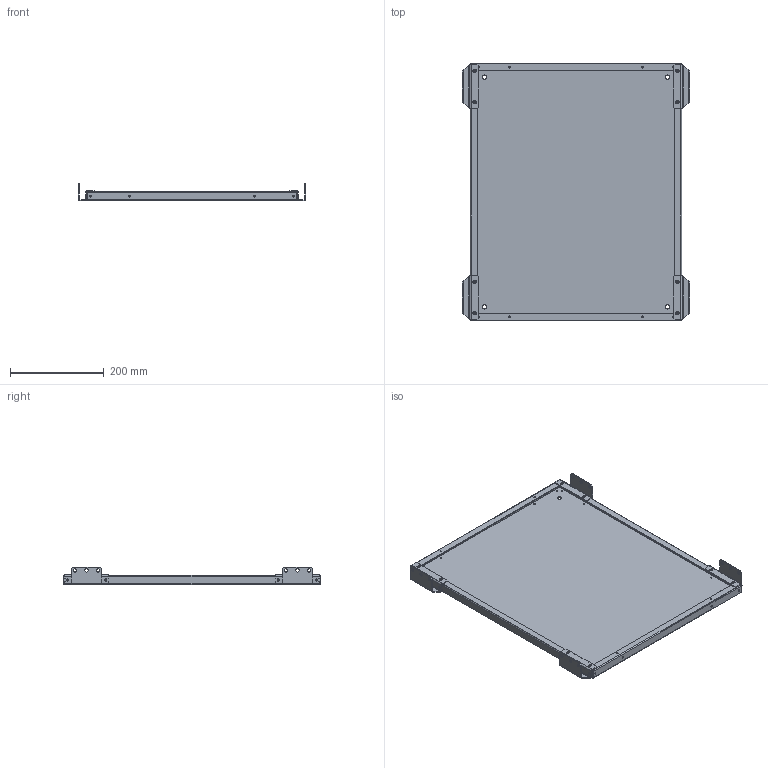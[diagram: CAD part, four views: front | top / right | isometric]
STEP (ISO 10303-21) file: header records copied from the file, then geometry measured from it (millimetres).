
FILE_DESCRIPTION (( 'STEP AP203' ), '1' );
FILE_NAME ('MP 45.55 M Ïàíåëü ìîíòàæíàÿ ñåêöèîííàÿ.STEP', '2013-01-09T13:28:31', ( 'System' ), ( '' ), 'SwSTEP 2.0', 'SolidWorks 2012', '' );
FILE_SCHEMA (( 'CONFIG_CONTROL_DESIGN' ));
Length unit declared in the file: millimetre
Products named in the file (1): MP 45.55 M Ïàíåëü ìîíòàæíàÿ ñåêöèîííàÿ
Bounding box: 485 x 550 x 37.75 mm (x, y, z)
Volume: 664845.2 mm3; surface area: 673747.5 mm2
Topology: 5 solids, 5 shells, 388 faces, 1016 edges, 632 vertices
Faces by surface type: cylinder 196, plane 168, bspline 16, sphere 8
Entity records: 12713 total; most frequent: CARTESIAN_POINT 2749, DIRECTION 2050, ORIENTED_EDGE 2016, EDGE_CURVE 1008, AXIS2_PLACEMENT_3D 733, VERTEX_POINT 632, LINE 584, VECTOR 584
